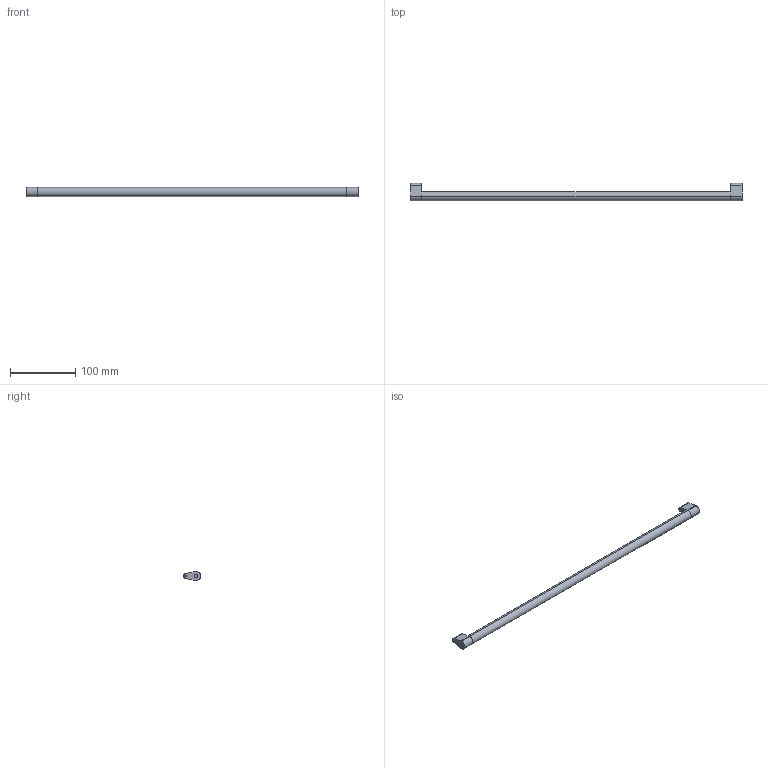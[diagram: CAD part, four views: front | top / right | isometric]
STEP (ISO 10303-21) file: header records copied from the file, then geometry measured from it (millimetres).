
FILE_DESCRIPTION (( 'STEP AP214' ), '1' );
FILE_NAME ('_Synchronisationseinheit Nova Pro KAB600_S19.step', '2010-07-08T13:58:44', ( 'grass' ), ( '' ), 'SwSTEP 2.0', 'SolidWorks 2010', '' );
FILE_SCHEMA (( 'AUTOMOTIVE_DESIGN' ));
Length unit declared in the file: millimetre
Products named in the file (1): _Synchronisationseinheit Nova Pro KAB600_S19
Bounding box: 509 x 26.5 x 14 mm (x, y, z)
Volume: 82041.3 mm3; surface area: 25234 mm2
Topology: 3 solids, 3 shells, 36 faces, 78 edges, 52 vertices
Faces by surface type: cylinder 18, plane 18
Entity records: 1050 total; most frequent: DIRECTION 188, CARTESIAN_POINT 167, ORIENTED_EDGE 156, EDGE_CURVE 78, AXIS2_PLACEMENT_3D 73, VERTEX_POINT 52, VECTOR 42, LINE 42
